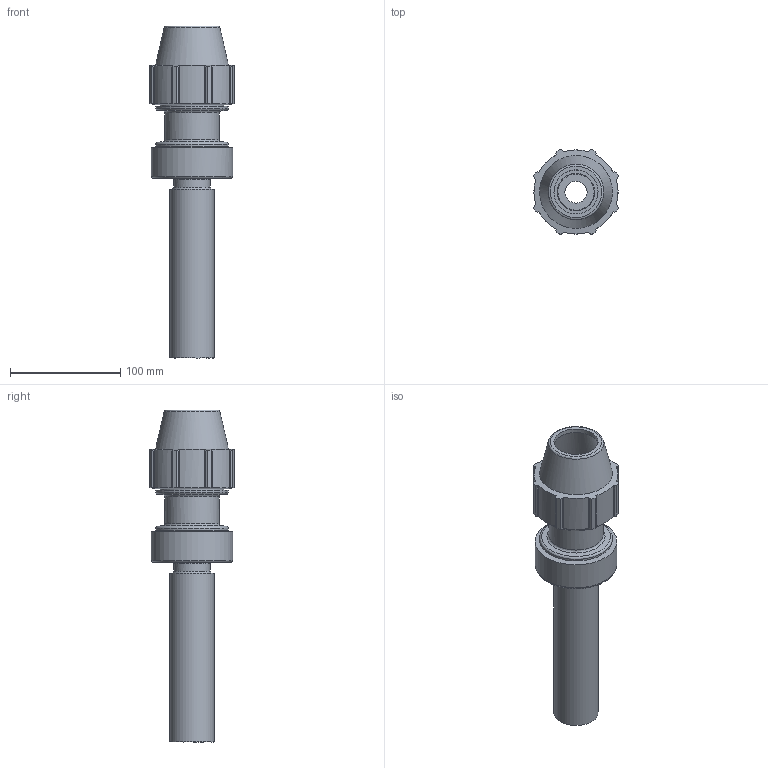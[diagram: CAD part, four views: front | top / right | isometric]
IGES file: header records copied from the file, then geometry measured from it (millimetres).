
Global section: file name: 074706040; native system: Autodesk Inventor 2019; preprocessor: unknown; author: comp2; date: 20230323.113519; units: millimetre
Bounding box: 77.16 x 77.16 x 301 mm (x, y, z)
Volume: 402132.9 mm3; surface area: 122854 mm2
Topology: 4 solids, 4 shells, 98 faces, 290 edges, 208 vertices
Faces by surface type: bspline 98
